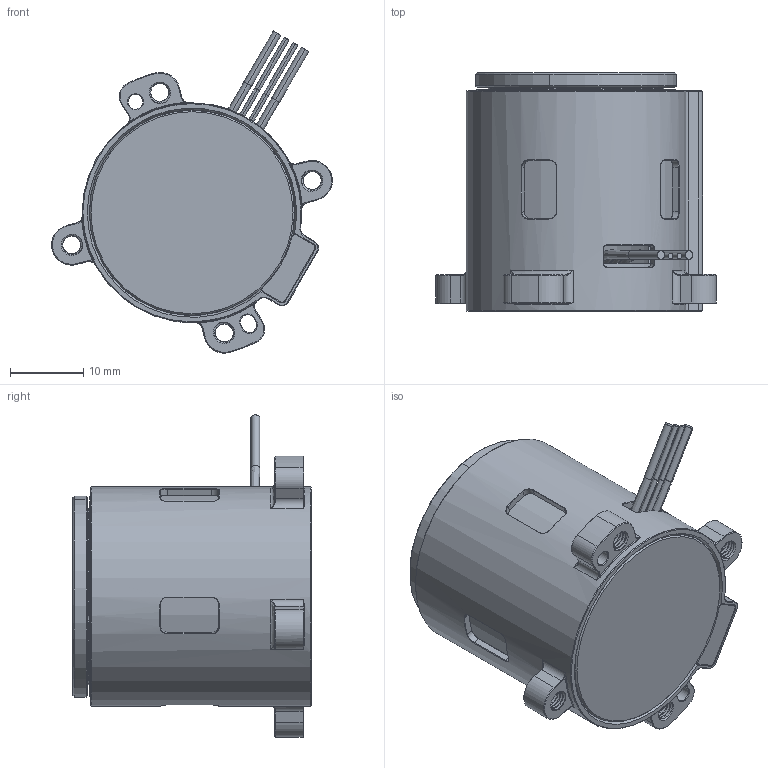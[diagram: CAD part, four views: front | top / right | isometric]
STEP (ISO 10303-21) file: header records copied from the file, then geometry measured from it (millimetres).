
FILE_DESCRIPTION((''),'2;1');
FILE_NAME('30UZ-WXT_ASM','2026-09-01T12:43:29',('wenbo'),(''),'CREO PARAMETRIC BY PTC INC, 2024325','CREO PARAMETRIC BY PTC INC, 2024325','');
FILE_SCHEMA(('CONFIG_CONTROL_DESIGN'));
Length unit declared in the file: millimetre
Products named in the file (15): 061100000001_ASM_2_ASM_1_1; 060400000003_ASM_8_ASM_1_1_ASM; 065600000011_7_1_1; 064200000003_7_1_1; 064300000003_1_1_1; 063500000003_1_1_1; 060600000004_ASM_15_ASM_1_1_ASM; 065400000013_1_1_1; 060200000013_ASM_65_ASM_1_1_ASM; DIANJINEIBU_1_1; 063000000012_240; 065400000011_21; ASM0007_ASM_1_1_ASM; YUANZHU; 30UZ-WXT_ASM
Assembly tree (22 placements, depth 5):
  30UZ-WXT_ASM
    ASM0007_ASM_1_1_ASM
      060200000013_ASM_65_ASM_1_1_ASM
        060400000003_ASM_8_ASM_1_1_ASM
          061100000001_ASM_2_ASM_1_1
        065600000011_7_1_1
        060600000004_ASM_15_ASM_1_1_ASM
          064200000003_7_1_1
          064300000003_1_1_1  x8
          063500000003_1_1_1
        065400000013_1_1_1  x2
      DIANJINEIBU_1_1
      063000000012_240
      065400000011_21
    YUANZHU
Bounding box: 38.34 x 32.55 x 43.98 mm (x, y, z)
Volume: 14528.1 mm3; surface area: 15000.5 mm2
Topology: 17 solids, 21 shells, 832 faces, 2313 edges, 1533 vertices
Faces by surface type: cylinder 246, plane 238, cone 185, bspline 114, torus 45, extrusion 4
Entity records: 40442 total; most frequent: CARTESIAN_POINT 20680, ORIENTED_EDGE 4202, DIRECTION 3942, EDGE_CURVE 2125, AXIS2_PLACEMENT_3D 1526, VERTEX_POINT 1403, VECTOR 890, LINE 886
